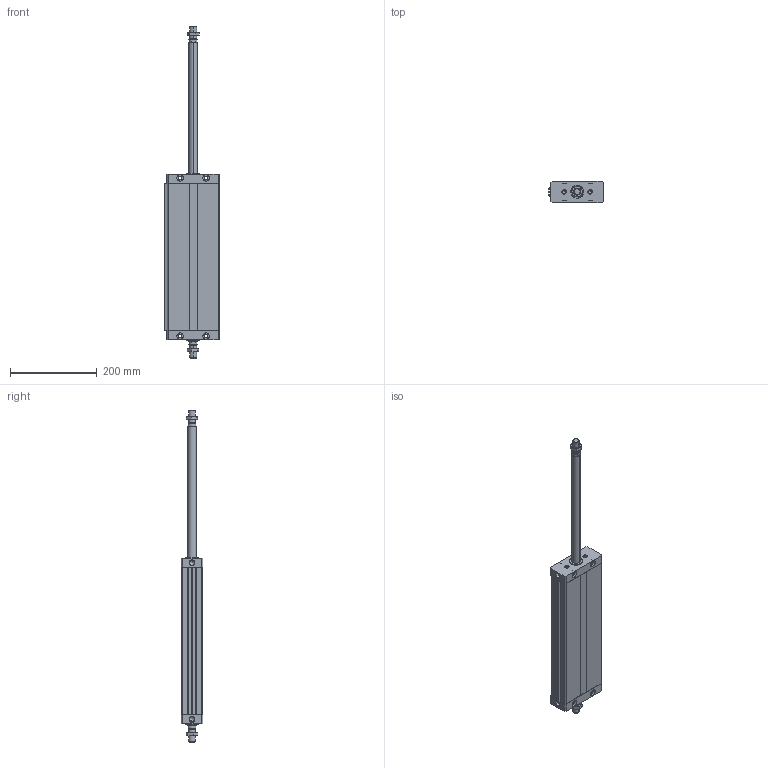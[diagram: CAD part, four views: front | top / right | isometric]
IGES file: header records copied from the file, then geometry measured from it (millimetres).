
Global section: file name: No Iges File Name specified; native system: Autodesk Inventor 2011; preprocessor: AutoDesk Inventor Iges Exporter R2011; author: airolcr1; date: 20101213.153613; units: millimetre
Bounding box: 126.75 x 50 x 766 mm (x, y, z)
Volume: 1483412.4 mm3; surface area: 332296.6 mm2
Topology: 6 solids, 6 shells, 280 faces, 664 edges, 396 vertices
Faces by surface type: bspline 114, plane 98, cone 36, cylinder 18, revolution 14
